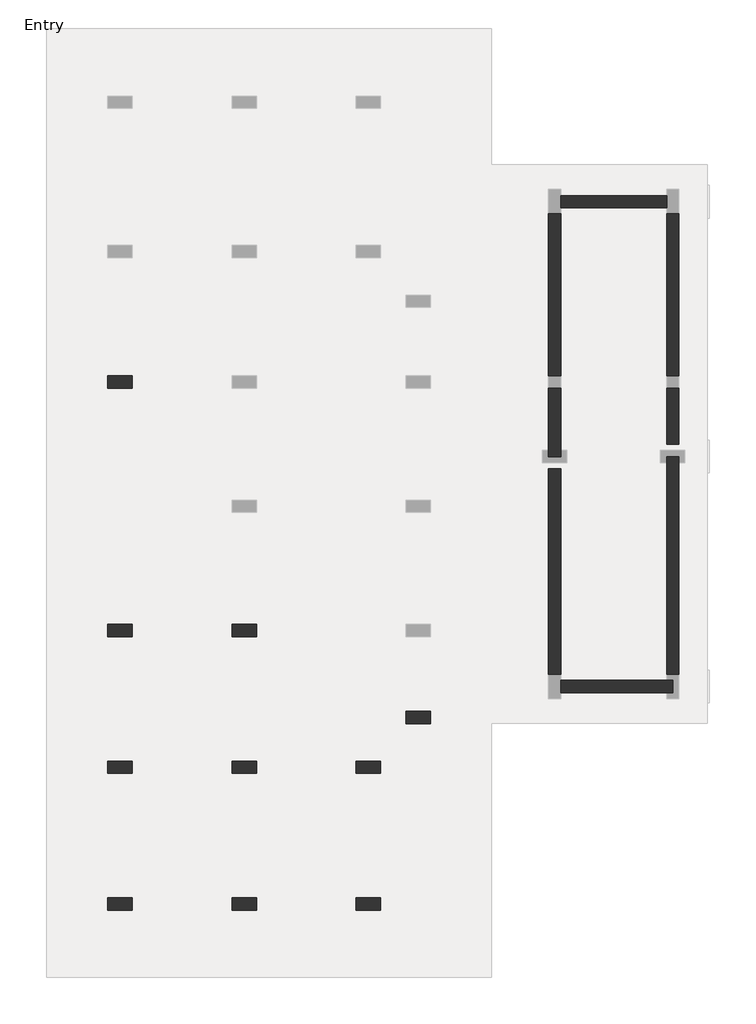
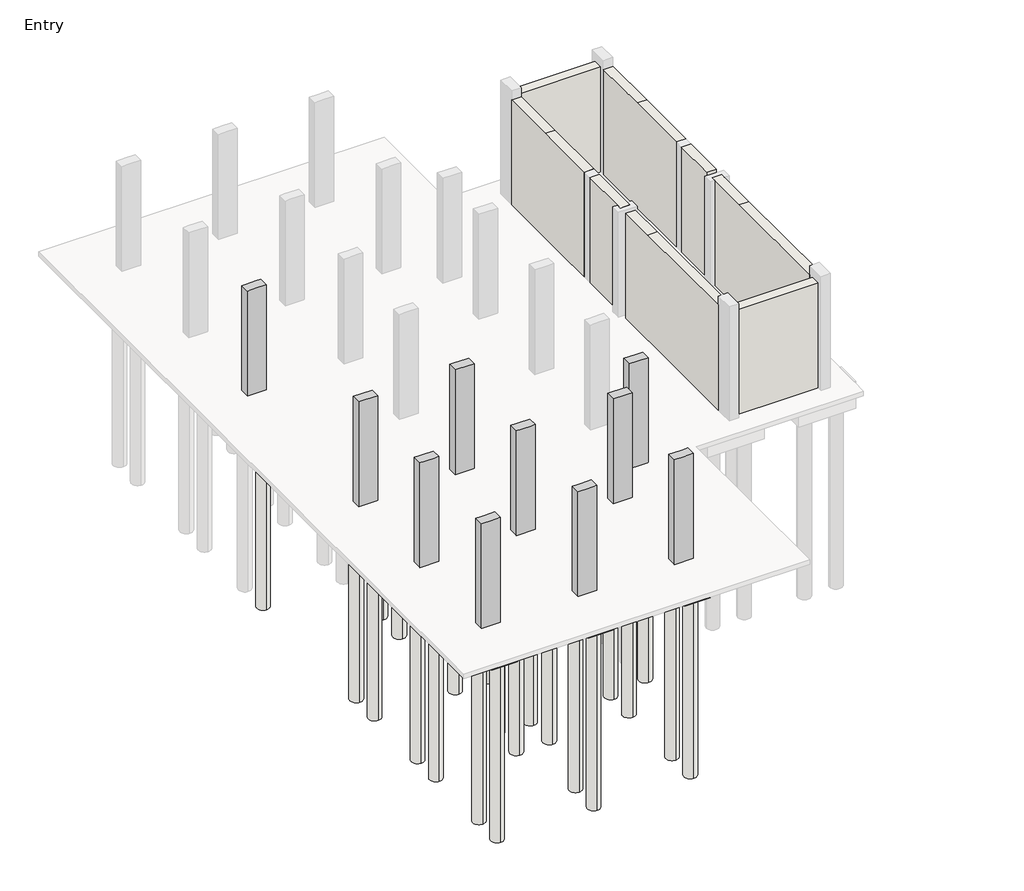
# One storey, part 1 of 3: 34 slabs, 10 columns, 8 walls.
"""IFC4 building model written with IfcOpenShell, lengths in millimetres."""

import ifcopenshell
import ifcopenshell.guid

model = None  # the IFC model being written
_history = None  # IfcOwnerHistory: only IFC2X3 demands one
_inside = {}  # id of a spatial element -> (the spatial element, [elements in it])
_under = {}  # id of a project, library or spatial element -> (it, [spatial elements below it])
_declared = {}  # id of a project -> (the project, [libraries it declares])
_typed = {}  # id of a type object -> (the type object, [elements of that type])
_made_of = {}  # id of a material, layer set ... -> (it, [elements and type objects made of it])


def new_model(schema):
    """Start an empty IFC model of exactly this schema.

    Asked for "IFC4X3", IfcOpenShell would pick the latest addendum, in which some entities
    have other attributes; the version numbers below select the first issue.
    IFC2X3 requires an IfcOwnerHistory on every rooted entity: one is made here for all.
    """
    global model, _history
    if schema == "IFC4X3":
        model = ifcopenshell.file(schema_version=(4, 3, 0, 0))
    else:
        model = ifcopenshell.file(schema=schema)
    _inside.clear()
    _under.clear()
    _declared.clear()
    _typed.clear()
    _made_of.clear()
    _history = None
    if model.schema == "IFC2X3":
        org = make("IfcOrganization", Name="unknown")
        user = make(
            "IfcPersonAndOrganization",
            ThePerson=make("IfcPerson", FamilyName="unknown"),
            TheOrganization=org,
        )
        app = make(
            "IfcApplication",
            ApplicationDeveloper=org,
            Version="unknown",
            ApplicationFullName="unknown",
            ApplicationIdentifier="unknown",
        )
        _history = make(
            "IfcOwnerHistory",
            OwningUser=user,
            OwningApplication=app,
            ChangeAction="ADDED",
            CreationDate=0,
        )
    return model


def make(cls, **values):
    """One entity of the class cls with the attributes given. An attribute that is None is left unset."""
    return model.create_entity(
        cls, **{name: value for name, value in values.items() if value is not None}
    )


def rooted(cls, **values):
    """An entity with a GlobalId (a new one), such as an element, a storey or a relation."""
    return make(cls, GlobalId=ifcopenshell.guid.new(), OwnerHistory=_history, **values)


def si_unit(unit_type, name, prefix=None):
    """IfcSIUnit, for example si_unit("LENGTHUNIT", "METRE", prefix="MILLI")."""
    return make("IfcSIUnit", UnitType=unit_type, Prefix=prefix, Name=name)


def assignment(units):
    """IfcUnitAssignment: the units of a project."""
    return None if units is None else make("IfcUnitAssignment", Units=units)


def point(xyz):
    """IfcCartesianPoint."""
    return None if xyz is None else make("IfcCartesianPoint", Coordinates=xyz)


def direction(xyz):
    """IfcDirection."""
    return None if xyz is None else make("IfcDirection", DirectionRatios=xyz)


def frame(location, z_axis=None, x_axis=None):
    """IfcAxis2Placement3D, a coordinate frame: its origin and axes. An axis left out is left unset."""
    return make(
        "IfcAxis2Placement3D",
        Location=point(location),
        Axis=direction(z_axis),
        RefDirection=direction(x_axis),
    )


def frame_2d(location, x_axis=None):
    """IfcAxis2Placement2D, a coordinate frame in the plane: its origin and x axis."""
    return make(
        "IfcAxis2Placement2D", Location=point(location), RefDirection=direction(x_axis)
    )


def origin():
    """The frame at (0, 0, 0) with its axes left unset."""
    return frame((0.0, 0.0, 0.0))


def origin_with_axes():
    """The frame at (0, 0, 0) with the z axis (0, 0, 1) and the x axis (1, 0, 0) written out."""
    return frame((0.0, 0.0, 0.0), z_axis=(0.0, 0.0, 1.0), x_axis=(1.0, 0.0, 0.0))


def place(relative_to, where):
    """IfcLocalPlacement: puts the frame where relative to a parent placement (None: the world)."""
    return make(
        "IfcLocalPlacement", PlacementRelTo=relative_to, RelativePlacement=where
    )


def context(
    kind, dimensions, precision=None, world=None, true_north=None, identifier=None
):
    """IfcGeometricRepresentationContext, for example the 3D "Model" context."""
    return make(
        "IfcGeometricRepresentationContext",
        ContextIdentifier=identifier,
        ContextType=kind,
        CoordinateSpaceDimension=dimensions,
        Precision=precision,
        WorldCoordinateSystem=world,
        TrueNorth=true_north,
    )


def project(units=None, contexts=None):
    """IfcProject with its units and contexts."""
    return rooted(
        "IfcProject",
        Name="project",
        RepresentationContexts=contexts,
        UnitsInContext=assignment(units),
    )


def spatial(cls, under=None, at=None, **own):
    """A site, building, storey or space (cls), placed at a placement, below another one or the project."""
    s = rooted(cls, ObjectPlacement=at, **own)
    if under is not None:
        _under.setdefault(under.id(), (under, []))[1].append(s)
    return s


def polyline(points):
    """IfcPolyline through the points."""
    return make("IfcPolyline", Points=[point(p) for p in points])


def circle_curve(where, radius):
    """IfcCircle in the frame where."""
    return make("IfcCircle", Position=where, Radius=radius)


def trimmed(basis, trim1, trim2, sense, master):
    """IfcTrimmedCurve: the piece of a basis curve between two trims."""
    return make(
        "IfcTrimmedCurve",
        BasisCurve=basis,
        Trim1=trim1,
        Trim2=trim2,
        SenseAgreement=sense,
        MasterRepresentation=master,
    )


def segment(curve, same_sense, transition):
    """IfcCompositeCurveSegment."""
    return make(
        "IfcCompositeCurveSegment",
        Transition=transition,
        SameSense=same_sense,
        ParentCurve=curve,
    )


def composite_curve(segments, self_intersect=None):
    """IfcCompositeCurve: segments joined end to end."""
    return make("IfcCompositeCurve", Segments=segments, SelfIntersect=self_intersect)


def outline(outer, holes=None, kind="AREA"):
    """IfcArbitraryClosedProfileDef: a profile drawn as a closed curve; with holes, ...WithVoids."""
    if holes is None:
        return make("IfcArbitraryClosedProfileDef", ProfileType=kind, OuterCurve=outer)
    return make(
        "IfcArbitraryProfileDefWithVoids",
        ProfileType=kind,
        OuterCurve=outer,
        InnerCurves=holes,
    )


def extrude(swept, where, along, depth):
    """IfcExtrudedAreaSolid: the profile swept, set in the frame where, extruded along a direction by depth."""
    return make(
        "IfcExtrudedAreaSolid",
        SweptArea=swept,
        Position=where,
        ExtrudedDirection=direction(along),
        Depth=depth,
    )


def faces_of(points, faces, orient=None, outer=None):
    """IfcFace entities. A face is a list of loops; a loop is a list of indices into points, from 0.

    orient and outer hold one flag for each loop. By default every Orientation is true, the
    first loop of a face is its IfcFaceOuterBound and the others are IfcFaceBound.
    """
    made = []
    for i, loops in enumerate(faces):
        bounds = []
        for j, loop in enumerate(loops):
            is_outer = j == 0 if outer is None else outer[i][j]
            bounds.append(
                make(
                    "IfcFaceOuterBound" if is_outer else "IfcFaceBound",
                    Bound=make("IfcPolyLoop", Polygon=[points[k] for k in loop]),
                    Orientation=True if orient is None else orient[i][j],
                )
            )
        made.append(make("IfcFace", Bounds=bounds))
    return made


def faceted_brep(points, faces, orient=None, outer=None, voids=None):
    """IfcFacetedBrep: a solid bounded by flat faces; with voids (closed shells), ...WithVoids."""
    shared = [point(p) for p in points]
    hull = make("IfcClosedShell", CfsFaces=faces_of(shared, faces, orient, outer))
    if voids is None:
        return make("IfcFacetedBrep", Outer=hull)
    return make(
        "IfcFacetedBrepWithVoids",
        Outer=hull,
        Voids=[
            make(cls, CfsFaces=faces_of(shared, fs, o, b)) for cls, fs, o, b in voids
        ],
    )


def shape(context_of_items, identifier, shape_type, items):
    """IfcShapeRepresentation: the items that make up one representation, for example the "Body"."""
    return make(
        "IfcShapeRepresentation",
        ContextOfItems=context_of_items,
        RepresentationIdentifier=identifier,
        RepresentationType=shape_type,
        Items=items,
    )


def made_of(thing, what):
    """Note that an element or type object is made of a material, layer set ...; save() writes the relation."""
    if what is not None:
        _made_of.setdefault(what.id(), (what, []))[1].append(thing)
    return thing


def element(
    cls,
    number,
    at=None,
    inside=None,
    cuts=None,
    type_object=None,
    material=None,
    context=None,
    identifier="Body",
    shape_type=None,
    held_by="IfcProductDefinitionShape",
    body=None,
    shapes=None,
    **own,
):
    """One element of the class cls, such as IfcWall. Its Tag is "e" and its number.

    at: its placement. inside: the storey or other place that contains it. cuts: it is an
    opening in that element (IfcRelVoidsElement). A single representation is given by context,
    identifier, shape_type and body (its items); several are given by shapes. held_by: the class
    of the entity that holds the representations. save() writes the other relations.
    """
    e = rooted(cls, Tag="e%d" % number, ObjectPlacement=at, **own)
    if body is not None:
        shapes = [shape(context, identifier, shape_type, body)]
    if shapes is not None:
        e.Representation = make(held_by, Representations=shapes)
    if inside is not None:
        _inside.setdefault(inside.id(), (inside, []))[1].append(e)
    if cuts is not None:
        rooted(
            "IfcRelVoidsElement", RelatingBuildingElement=cuts, RelatedOpeningElement=e
        )
    if type_object is not None:
        _typed.setdefault(type_object.id(), (type_object, []))[1].append(e)
    return made_of(e, material)


def aggregate(whole, parts):
    """IfcRelAggregates: a whole, such as a stair, and the parts it consists of."""
    return rooted("IfcRelAggregates", RelatingObject=whole, RelatedObjects=parts)


def save(model, path):
    """Write the relations noted so far, then the file.

    IfcRelAggregates (storeys below a building ...), IfcRelContainedInSpatialStructure (elements
    in a storey), IfcRelDefinesByType, IfcRelAssociatesMaterial and IfcRelDeclares: one each for
    every whole, place, type object, material and project.
    """
    for whole, parts in _under.values():
        aggregate(whole, parts)
    for where, things in _inside.values():
        rooted(
            "IfcRelContainedInSpatialStructure",
            RelatedElements=things,
            RelatingStructure=where,
        )
    for kind, things in _typed.values():
        rooted("IfcRelDefinesByType", RelatedObjects=things, RelatingType=kind)
    for what, things in _made_of.values():
        rooted("IfcRelAssociatesMaterial", RelatedObjects=things, RelatingMaterial=what)
    for by, libraries in _declared.values():
        rooted("IfcRelDeclares", RelatingContext=by, RelatedDefinitions=libraries)
    model.write(path)


model = new_model("IFC4")

# Units and contexts
model_context = context("Model", 3, world=origin())
ifc_project = project(units=[si_unit("LENGTHUNIT", "METRE", prefix="MILLI")], contexts=[model_context])

# Site, building, storey
site = spatial("IfcSite", under=ifc_project)
building = spatial("IfcBuilding", under=site)
storey = spatial("IfcBuildingStorey", under=building, Name="Entry", Elevation=0.0)

# Columns
placement = place(None, origin())
element("IfcColumn", 1, ObjectType="M_Concrete-Rectangular-Column : 300 x 600mm", at=placement, inside=storey, context=model_context, shape_type="Brep", body=[
    faceted_brep([(-13131.3472303, 8019.016665, 0.0), (-12531.3472303, 8019.016665, 0.0), (-12531.3472303, 7719.016665, 0.0), (-13131.3472303, 7719.016665, 0.0), (-13131.3472303, 8019.016665, 3505.2), (-12981.3472303, 8019.016665, 3505.2), (-12681.3472303, 8019.016665, 3505.2), (-12531.3472303, 8019.016665, 3505.2), (-12531.3472303, 8019.016665, 2910.0), (-12531.3472303, 7719.016665, 3505.2), (-12531.3472303, 7719.016665, 2910.0), (-12831.3472303, 7719.016665, 3505.2), (-13131.3472303, 7719.016665, 3505.2)], [[[0, 1, 2, 3]], [[4, 5, 6, 7, 8, 1, 0]], [[7, 9, 10, 2, 1, 8]], [[9, 11, 12, 3, 2, 10]], [[12, 4, 0, 3]], [[4, 12, 11, 9, 7, 6, 5]]]),
])
element("IfcColumn", 2, ObjectType="M_Concrete-Rectangular-Column : 300 x 600mm", at=placement, inside=storey, context=model_context, shape_type="Brep", body=[
    faceted_brep([(-13131.3472303, 1923.016665, 0.0), (-12531.3472303, 1923.016665, 0.0), (-12531.3472303, 1623.016665, 0.0), (-13131.3472303, 1623.016665, 0.0), (-13131.3472303, 1923.016665, 3505.2), (-12831.3472303, 1923.016665, 3505.2), (-12531.3472303, 1923.016665, 3505.2), (-12531.3472303, 1923.016665, 2910.0), (-12531.3472303, 1623.016665, 3505.2), (-12531.3472303, 1623.016665, 2910.0), (-12681.3472303, 1623.016665, 3505.2), (-12981.3472303, 1623.016665, 3505.2), (-13131.3472303, 1623.016665, 3505.2)], [[[0, 1, 2, 3]], [[4, 5, 6, 7, 1, 0]], [[6, 8, 9, 2, 1, 7]], [[8, 10, 11, 12, 3, 2, 9]], [[12, 4, 0, 3]], [[4, 12, 11, 10, 8, 6, 5]]]),
])
element("IfcColumn", 3, ObjectType="M_Concrete-Rectangular-Column : 300 x 600mm", at=placement, inside=storey, context=model_context, shape_type="Brep", body=[
    faceted_brep([(-10083.3472303, 1923.016665, 0.0), (-9483.3472303, 1923.016665, 0.0), (-9483.3472303, 1623.016665, 0.0), (-10083.3472303, 1623.016665, 0.0), (-10083.3472303, 1923.016665, 3505.2), (-9933.3472303, 1923.016665, 3505.2), (-9783.3472303, 1923.016665, 3505.2), (-9483.3472303, 1923.016665, 3505.2), (-9483.3472303, 1923.016665, 2910.0), (-10083.3472303, 1923.016665, 2910.0), (-9483.3472303, 1623.016665, 3505.2), (-9483.3472303, 1623.016665, 2910.0), (-9783.3472303, 1623.016665, 3505.2), (-9933.3472303, 1623.016665, 3505.2), (-10083.3472303, 1623.016665, 3505.2), (-10083.3472303, 1623.016665, 2910.0)], [[[0, 1, 2, 3]], [[4, 5, 6, 7, 8, 1, 0, 9]], [[7, 10, 11, 2, 1, 8]], [[10, 12, 13, 14, 15, 3, 2, 11]], [[14, 4, 9, 0, 3, 15]], [[4, 14, 13, 12, 10, 7, 6, 5]]]),
])
element("IfcColumn", 4, ObjectType="M_Concrete-Rectangular-Column : 300 x 600mm", at=placement, inside=storey, context=model_context, shape_type="Brep", body=[
    faceted_brep([(-5816.3472303, -210.983335, 0.0), (-5216.3472303, -210.983335, 0.0), (-5216.3472303, -510.983335, 0.0), (-5816.3472303, -510.983335, 0.0), (-5816.3472303, -210.983335, 3505.2), (-5666.3472303, -210.983335, 3505.2), (-5366.3472303, -210.983335, 3505.2), (-5216.3472303, -210.983335, 3505.2), (-5816.3472303, -210.983335, 2910.0), (-5216.3472303, -510.983335, 3505.2), (-5516.3472303, -510.983335, 3505.2), (-5816.3472303, -510.983335, 3505.2), (-5816.3472303, -510.983335, 2910.0)], [[[0, 1, 2, 3]], [[4, 5, 6, 7, 1, 0, 8]], [[7, 9, 2, 1]], [[9, 10, 11, 12, 3, 2]], [[11, 4, 8, 0, 3, 12]], [[4, 11, 10, 9, 7, 6, 5]]]),
])
element("IfcColumn", 5, ObjectType="M_Concrete-Rectangular-Column : 300 x 600mm", at=placement, inside=storey, context=model_context, shape_type="Brep", body=[
    faceted_brep([(-13131.3472303, -1429.983335, 0.0), (-12531.3472303, -1429.983335, 0.0), (-12531.3472303, -1729.983335, 0.0), (-13131.3472303, -1729.983335, 0.0), (-13131.3472303, -1429.983335, 3505.2), (-12981.3472303, -1429.983335, 3505.2), (-12831.3472303, -1429.983335, 3505.2), (-12531.3472303, -1429.983335, 3505.2), (-12531.3472303, -1429.983335, 2910.0), (-12531.3472303, -1729.983335, 3505.2), (-12531.3472303, -1729.983335, 2910.0), (-12681.3472303, -1729.983335, 3505.2), (-12981.3472303, -1729.983335, 3505.2), (-13131.3472303, -1729.983335, 3505.2)], [[[0, 1, 2, 3]], [[4, 5, 6, 7, 8, 1, 0]], [[7, 9, 10, 2, 1, 8]], [[9, 11, 12, 13, 3, 2, 10]], [[13, 4, 0, 3]], [[4, 13, 12, 11, 9, 7, 6, 5]]]),
])
element("IfcColumn", 6, ObjectType="M_Concrete-Rectangular-Column : 300 x 600mm", at=placement, inside=storey, context=model_context, shape_type="Brep", body=[
    faceted_brep([(-10083.3472303, -1429.983335, 0.0), (-9483.3472303, -1429.983335, 0.0), (-9483.3472303, -1729.983335, 0.0), (-10083.3472303, -1729.983335, 0.0), (-10083.3472303, -1429.983335, 3505.2), (-9933.3472303, -1429.983335, 3505.2), (-9783.3472303, -1429.983335, 3505.2), (-9483.3472303, -1429.983335, 3505.2), (-9483.3472303, -1429.983335, 2910.0), (-10083.3472303, -1429.983335, 2910.0), (-9483.3472303, -1729.983335, 3505.2), (-9483.3472303, -1729.983335, 2910.0), (-9633.3472303, -1729.983335, 3505.2), (-9933.3472303, -1729.983335, 3505.2), (-10083.3472303, -1729.983335, 3505.2), (-10083.3472303, -1729.983335, 2910.0)], [[[0, 1, 2, 3]], [[4, 5, 6, 7, 8, 1, 0, 9]], [[7, 10, 11, 2, 1, 8]], [[10, 12, 13, 14, 15, 3, 2, 11]], [[14, 4, 9, 0, 3, 15]], [[4, 14, 13, 12, 10, 7, 6, 5]]]),
])
element("IfcColumn", 7, ObjectType="M_Concrete-Rectangular-Column : 300 x 600mm", at=placement, inside=storey, context=model_context, shape_type="Brep", body=[
    faceted_brep([(-7035.3472303, -1429.983335, 0.0), (-6435.3472303, -1429.983335, 0.0), (-6435.3472303, -1729.983335, 0.0), (-7035.3472303, -1729.983335, 0.0), (-7035.3472303, -1429.983335, 3505.2), (-6885.3472303, -1429.983335, 3505.2), (-6585.3472303, -1429.983335, 3505.2), (-6435.3472303, -1429.983335, 3505.2), (-7035.3472303, -1429.983335, 2910.0), (-6435.3472303, -1729.983335, 3505.2), (-6585.3472303, -1729.983335, 3505.2), (-6735.3472303, -1729.983335, 3505.2), (-7035.3472303, -1729.983335, 3505.2), (-7035.3472303, -1729.983335, 2910.0)], [[[0, 1, 2, 3]], [[4, 5, 6, 7, 1, 0, 8]], [[7, 9, 2, 1]], [[9, 10, 11, 12, 13, 3, 2]], [[12, 4, 8, 0, 3, 13]], [[4, 12, 11, 10, 9, 7, 6, 5]]]),
])
element("IfcColumn", 8, ObjectType="M_Concrete-Rectangular-Column : 300 x 600mm", at=placement, inside=storey, context=model_context, shape_type="Brep", body=[
    faceted_brep([(-13131.3472303, -4782.983335, 0.0), (-12531.3472303, -4782.983335, 0.0), (-12531.3472303, -5082.983335, 0.0), (-13131.3472303, -5082.983335, 0.0), (-13131.3472303, -4782.983335, 3505.2), (-12981.3472303, -4782.983335, 3505.2), (-12831.3472303, -4782.983335, 3505.2), (-12531.3472303, -4782.983335, 3505.2), (-12531.3472303, -4782.983335, 2910.0), (-12531.3472303, -5082.983335, 3505.2), (-12531.3472303, -5082.983335, 2910.0), (-12831.3472303, -5082.983335, 3505.2), (-13131.3472303, -5082.983335, 3505.2)], [[[0, 1, 2, 3]], [[4, 5, 6, 7, 8, 1, 0]], [[7, 9, 10, 2, 1, 8]], [[9, 11, 12, 3, 2, 10]], [[12, 4, 0, 3]], [[4, 12, 11, 9, 7, 6, 5]]]),
])
element("IfcColumn", 9, ObjectType="M_Concrete-Rectangular-Column : 300 x 600mm", at=placement, inside=storey, context=model_context, shape_type="Brep", body=[
    faceted_brep([(-10083.3472303, -4782.983335, 0.0), (-9483.3472303, -4782.983335, 0.0), (-9483.3472303, -5082.983335, 0.0), (-10083.3472303, -5082.983335, 0.0), (-10083.3472303, -4782.983335, 3505.2), (-9933.3472303, -4782.983335, 3505.2), (-9783.3472303, -4782.983335, 3505.2), (-9483.3472303, -4782.983335, 3505.2), (-9483.3472303, -4782.983335, 2910.0), (-10083.3472303, -4782.983335, 2910.0), (-9483.3472303, -5082.983335, 3505.2), (-9483.3472303, -5082.983335, 2910.0), (-9783.3472303, -5082.983335, 3505.2), (-10083.3472303, -5082.983335, 3505.2), (-10083.3472303, -5082.983335, 2910.0)], [[[0, 1, 2, 3]], [[4, 5, 6, 7, 8, 1, 0, 9]], [[7, 10, 11, 2, 1, 8]], [[10, 12, 13, 14, 3, 2, 11]], [[13, 4, 9, 0, 3, 14]], [[4, 13, 12, 10, 7, 6, 5]]]),
])
element("IfcColumn", 10, ObjectType="M_Concrete-Rectangular-Column : 300 x 600mm", at=placement, inside=storey, context=model_context, shape_type="Brep", body=[
    faceted_brep([(-7035.3472303, -4782.983335, 0.0), (-6435.3472303, -4782.983335, 0.0), (-6435.3472303, -5082.983335, 0.0), (-7035.3472303, -5082.983335, 0.0), (-7035.3472303, -4782.983335, 3505.2), (-6885.3472303, -4782.983335, 3505.2), (-6585.3472303, -4782.983335, 3505.2), (-6435.3472303, -4782.983335, 3505.2), (-7035.3472303, -4782.983335, 2910.0), (-6435.3472303, -5082.983335, 3505.2), (-6735.3472303, -5082.983335, 3505.2), (-7035.3472303, -5082.983335, 3505.2), (-7035.3472303, -5082.983335, 2910.0)], [[[0, 1, 2, 3]], [[4, 5, 6, 7, 1, 0, 8]], [[7, 9, 2, 1]], [[9, 10, 11, 12, 3, 2]], [[11, 4, 8, 0, 3, 12]], [[4, 11, 10, 9, 7, 6, 5]]]),
])

# Slabs
element("IfcSlab", 11, ObjectType="M_Pile Cap-2 Pile : 800 x 1500 x 900", at=placement, inside=storey, context=model_context, shape_type="SweptSolid", body=[
    extrude(outline(polyline([(-7135.3472303, -679.983335), (-6335.3472303, -679.983335), (-6335.3472303, -2479.983335), (-7135.3472303, -2479.983335), (-7135.3472303, -679.983335)])), frame((0.0, 0.0, -900.0), z_axis=(0.0, 0.0, 1.0), x_axis=(1.0, 0.0, 0.0)), (0.0, 0.0, 1.0), 750.0),
])
element("IfcSlab", 12, ObjectType="M_Pile Cap-2 Pile : 800 x 1500 x 900", at=placement, inside=storey, context=model_context, shape_type="SweptSolid", body=[
    extrude(outline(polyline([(-7135.3472303, -4032.983335), (-6335.3472303, -4032.983335), (-6335.3472303, -5832.983335), (-7135.3472303, -5832.983335), (-7135.3472303, -4032.983335)])), frame((0.0, 0.0, -900.0), z_axis=(0.0, 0.0, 1.0), x_axis=(1.0, 0.0, 0.0)), (0.0, 0.0, 1.0), 750.0),
])
element("IfcSlab", 13, ObjectType="M_Pile Cap-2 Pile : 800 x 1500 x 900", at=placement, inside=storey, context=model_context, shape_type="SweptSolid", body=[
    extrude(outline(polyline([(-10183.3472303, -4032.983335), (-9383.3472303, -4032.983335), (-9383.3472303, -5832.983335), (-10183.3472303, -5832.983335), (-10183.3472303, -4032.983335)])), frame((0.0, 0.0, -900.0), z_axis=(0.0, 0.0, 1.0), x_axis=(1.0, 0.0, 0.0)), (0.0, 0.0, 1.0), 750.0),
])
element("IfcSlab", 14, ObjectType="M_Pile Cap-2 Pile : 800 x 1500 x 900", at=placement, inside=storey, context=model_context, shape_type="SweptSolid", body=[
    extrude(outline(polyline([(-13231.3472303, -4032.983335), (-12431.3472303, -4032.983335), (-12431.3472303, -5832.983335), (-13231.3472303, -5832.983335), (-13231.3472303, -4032.983335)])), frame((0.0, 0.0, -900.0), z_axis=(0.0, 0.0, 1.0), x_axis=(1.0, 0.0, 0.0)), (0.0, 0.0, 1.0), 750.0),
])
element("IfcSlab", 15, ObjectType="M_Pile Cap-2 Pile : 800 x 1500 x 900", at=placement, inside=storey, context=model_context, shape_type="SweptSolid", body=[
    extrude(outline(polyline([(-13231.3472303, -679.983335), (-12431.3472303, -679.983335), (-12431.3472303, -2479.983335), (-13231.3472303, -2479.983335), (-13231.3472303, -679.983335)])), frame((0.0, 0.0, -900.0), z_axis=(0.0, 0.0, 1.0), x_axis=(1.0, 0.0, 0.0)), (0.0, 0.0, 1.0), 750.0),
])
element("IfcSlab", 16, ObjectType="M_Pile Cap-2 Pile : 800 x 1500 x 900", at=placement, inside=storey, context=model_context, shape_type="SweptSolid", body=[
    extrude(outline(polyline([(-13231.3472303, 2673.016665), (-12431.3472303, 2673.016665), (-12431.3472303, 873.016665), (-13231.3472303, 873.016665), (-13231.3472303, 2673.016665)])), frame((0.0, 0.0, -900.0), z_axis=(0.0, 0.0, 1.0), x_axis=(1.0, 0.0, 0.0)), (0.0, 0.0, 1.0), 750.0),
])
element("IfcSlab", 17, ObjectType="M_Pile Cap-2 Pile : 800 x 1500 x 900", at=placement, inside=storey, context=model_context, shape_type="SweptSolid", body=[
    extrude(outline(polyline([(-13231.3472303, 8769.016665), (-12431.3472303, 8769.016665), (-12431.3472303, 6969.016665), (-13231.3472303, 6969.016665), (-13231.3472303, 8769.016665)])), frame((0.0, 0.0, -900.0), z_axis=(0.0, 0.0, 1.0), x_axis=(1.0, 0.0, 0.0)), (0.0, 0.0, 1.0), 750.0),
])
element("IfcSlab", 18, ObjectType="M_Pile Cap-2 Pile : 800 x 1500 x 900", at=placement, inside=storey, context=model_context, shape_type="SweptSolid", body=[
    extrude(outline(polyline([(-5916.3472303, 539.016665), (-5116.3472303, 539.016665), (-5116.3472303, -1260.983335), (-5916.3472303, -1260.983335), (-5916.3472303, 539.016665)])), frame((0.0, 0.0, -900.0), z_axis=(0.0, 0.0, 1.0), x_axis=(1.0, 0.0, 0.0)), (0.0, 0.0, 1.0), 750.0),
])
element("IfcSlab", 19, ObjectType="M_Pile Cap-4 Pile : 1800 x 1800 x 900", at=placement, inside=storey, context=model_context, shape_type="SweptSolid", body=[
    extrude(outline(polyline([(-10683.3472303, 2673.016665), (-8883.3472303, 2673.016665), (-8883.3472303, 873.016665), (-10683.3472303, 873.016665), (-10683.3472303, 2673.016665)])), frame((0.0, 0.0, -900.0), z_axis=(0.0, 0.0, 1.0), x_axis=(1.0, 0.0, 0.0)), (0.0, 0.0, 1.0), 750.0),
])
element("IfcSlab", 20, ObjectType="M_Pile Cap-4 Pile : 1800 x 1800 x 900", at=placement, inside=storey, context=model_context, shape_type="SweptSolid", body=[
    extrude(outline(polyline([(-10683.3472303, -679.983335), (-8883.3472303, -679.983335), (-8883.3472303, -2479.983335), (-10683.3472303, -2479.983335), (-10683.3472303, -679.983335)])), frame((0.0, 0.0, -900.0), z_axis=(0.0, 0.0, 1.0), x_axis=(1.0, 0.0, 0.0)), (0.0, 0.0, 1.0), 750.0),
])
element("IfcSlab", 21, ObjectType="M_Pile-Steel Pipe : 400mm Diameter", at=placement, inside=storey, context=model_context, shape_type="SweptSolid", body=[
    extrude(outline(composite_curve([segment(trimmed(circle_curve(frame_2d((-10303.3472303, 5341.016665)), 200.0), [point((-10303.3472303, 5141.016665))], [point((-10303.3472303, 5541.016665))], False, "CARTESIAN"), True, "CONTINUOUS"), segment(trimmed(circle_curve(frame_2d((-10303.3472303, 5341.016665)), 200.0), [point((-10303.3472303, 5541.016665))], [point((-10303.3472303, 5141.016665))], False, "CARTESIAN"), True, "CONTINUOUS")], self_intersect=False)), frame((0.0, 0.0, -6900.0), z_axis=(0.0, 0.0, 1.0), x_axis=(1.0, 0.0, 0.0)), (0.0, 0.0, 1.0), 6000.0),
])
element("IfcSlab", 22, ObjectType="M_Pile-Steel Pipe : 400mm Diameter", at=placement, inside=storey, context=model_context, shape_type="SweptSolid", body=[
    extrude(outline(composite_curve([segment(trimmed(circle_curve(frame_2d((-10303.3472303, 4301.016665)), 200.0), [point((-10303.3472303, 4101.016665))], [point((-10303.3472303, 4501.016665))], False, "CARTESIAN"), True, "CONTINUOUS"), segment(trimmed(circle_curve(frame_2d((-10303.3472303, 4301.016665)), 200.0), [point((-10303.3472303, 4501.016665))], [point((-10303.3472303, 4101.016665))], False, "CARTESIAN"), True, "CONTINUOUS")], self_intersect=False)), frame((0.0, 0.0, -6900.0), z_axis=(0.0, 0.0, 1.0), x_axis=(1.0, 0.0, 0.0)), (0.0, 0.0, 1.0), 6000.0),
])
element("IfcSlab", 23, ObjectType="M_Pile-Steel Pipe : 400mm Diameter", at=placement, inside=storey, context=model_context, shape_type="SweptSolid", body=[
    extrude(outline(composite_curve([segment(trimmed(circle_curve(frame_2d((-9263.3472303, 1253.016665)), 200.0), [point((-9263.3472303, 1053.016665))], [point((-9263.3472303, 1453.016665))], False, "CARTESIAN"), True, "CONTINUOUS"), segment(trimmed(circle_curve(frame_2d((-9263.3472303, 1253.016665)), 200.0), [point((-9263.3472303, 1453.016665))], [point((-9263.3472303, 1053.016665))], False, "CARTESIAN"), True, "CONTINUOUS")], self_intersect=False)), frame((0.0, 0.0, -6900.0), z_axis=(0.0, 0.0, 1.0), x_axis=(1.0, 0.0, 0.0)), (0.0, 0.0, 1.0), 6000.0),
])
element("IfcSlab", 24, ObjectType="M_Pile-Steel Pipe : 400mm Diameter", at=placement, inside=storey, context=model_context, shape_type="SweptSolid", body=[
    extrude(outline(composite_curve([segment(trimmed(circle_curve(frame_2d((-9263.3472303, 2293.016665)), 200.0), [point((-9263.3472303, 2093.016665))], [point((-9263.3472303, 2493.016665))], False, "CARTESIAN"), True, "CONTINUOUS"), segment(trimmed(circle_curve(frame_2d((-9263.3472303, 2293.016665)), 200.0), [point((-9263.3472303, 2493.016665))], [point((-9263.3472303, 2093.016665))], False, "CARTESIAN"), True, "CONTINUOUS")], self_intersect=False)), frame((0.0, 0.0, -6900.0), z_axis=(0.0, 0.0, 1.0), x_axis=(1.0, 0.0, 0.0)), (0.0, 0.0, 1.0), 6000.0),
])
element("IfcSlab", 25, ObjectType="M_Pile-Steel Pipe : 400mm Diameter", at=placement, inside=storey, context=model_context, shape_type="SweptSolid", body=[
    extrude(outline(composite_curve([segment(trimmed(circle_curve(frame_2d((-10303.3472303, 2293.016665)), 200.0), [point((-10303.3472303, 2093.016665))], [point((-10303.3472303, 2493.016665))], False, "CARTESIAN"), True, "CONTINUOUS"), segment(trimmed(circle_curve(frame_2d((-10303.3472303, 2293.016665)), 200.0), [point((-10303.3472303, 2493.016665))], [point((-10303.3472303, 2093.016665))], False, "CARTESIAN"), True, "CONTINUOUS")], self_intersect=False)), frame((0.0, 0.0, -6900.0), z_axis=(0.0, 0.0, 1.0), x_axis=(1.0, 0.0, 0.0)), (0.0, 0.0, 1.0), 6000.0),
])
element("IfcSlab", 26, ObjectType="M_Pile-Steel Pipe : 400mm Diameter", at=placement, inside=storey, context=model_context, shape_type="SweptSolid", body=[
    extrude(outline(composite_curve([segment(trimmed(circle_curve(frame_2d((-10303.3472303, 1253.016665)), 200.0), [point((-10303.3472303, 1053.016665))], [point((-10303.3472303, 1453.016665))], False, "CARTESIAN"), True, "CONTINUOUS"), segment(trimmed(circle_curve(frame_2d((-10303.3472303, 1253.016665)), 200.0), [point((-10303.3472303, 1453.016665))], [point((-10303.3472303, 1053.016665))], False, "CARTESIAN"), True, "CONTINUOUS")], self_intersect=False)), frame((0.0, 0.0, -6900.0), z_axis=(0.0, 0.0, 1.0), x_axis=(1.0, 0.0, 0.0)), (0.0, 0.0, 1.0), 6000.0),
])
element("IfcSlab", 27, ObjectType="M_Pile-Steel Pipe : 400mm Diameter", at=placement, inside=storey, context=model_context, shape_type="SweptSolid", body=[
    extrude(outline(composite_curve([segment(trimmed(circle_curve(frame_2d((-9263.3472303, -2099.983335)), 200.0), [point((-9263.3472303, -2299.983335))], [point((-9263.3472303, -1899.983335))], False, "CARTESIAN"), True, "CONTINUOUS"), segment(trimmed(circle_curve(frame_2d((-9263.3472303, -2099.983335)), 200.0), [point((-9263.3472303, -1899.983335))], [point((-9263.3472303, -2299.983335))], False, "CARTESIAN"), True, "CONTINUOUS")], self_intersect=False)), frame((0.0, 0.0, -6900.0), z_axis=(0.0, 0.0, 1.0), x_axis=(1.0, 0.0, 0.0)), (0.0, 0.0, 1.0), 6000.0),
])
element("IfcSlab", 28, ObjectType="M_Pile-Steel Pipe : 400mm Diameter", at=placement, inside=storey, context=model_context, shape_type="SweptSolid", body=[
    extrude(outline(composite_curve([segment(trimmed(circle_curve(frame_2d((-9263.3472303, -1059.983335)), 200.0), [point((-9263.3472303, -1259.983335))], [point((-9263.3472303, -859.983335))], False, "CARTESIAN"), True, "CONTINUOUS"), segment(trimmed(circle_curve(frame_2d((-9263.3472303, -1059.983335)), 200.0), [point((-9263.3472303, -859.983335))], [point((-9263.3472303, -1259.983335))], False, "CARTESIAN"), True, "CONTINUOUS")], self_intersect=False)), frame((0.0, 0.0, -6900.0), z_axis=(0.0, 0.0, 1.0), x_axis=(1.0, 0.0, 0.0)), (0.0, 0.0, 1.0), 6000.0),
])
element("IfcSlab", 29, ObjectType="M_Pile-Steel Pipe : 400mm Diameter", at=placement, inside=storey, context=model_context, shape_type="SweptSolid", body=[
    extrude(outline(composite_curve([segment(trimmed(circle_curve(frame_2d((-10303.3472303, -1059.983335)), 200.0), [point((-10303.3472303, -1259.983335))], [point((-10303.3472303, -859.983335))], False, "CARTESIAN"), True, "CONTINUOUS"), segment(trimmed(circle_curve(frame_2d((-10303.3472303, -1059.983335)), 200.0), [point((-10303.3472303, -859.983335))], [point((-10303.3472303, -1259.983335))], False, "CARTESIAN"), True, "CONTINUOUS")], self_intersect=False)), frame((0.0, 0.0, -6900.0), z_axis=(0.0, 0.0, 1.0), x_axis=(1.0, 0.0, 0.0)), (0.0, 0.0, 1.0), 6000.0),
])
element("IfcSlab", 30, ObjectType="M_Pile-Steel Pipe : 400mm Diameter", at=placement, inside=storey, context=model_context, shape_type="SweptSolid", body=[
    extrude(outline(composite_curve([segment(trimmed(circle_curve(frame_2d((-10303.3472303, -2099.983335)), 200.0), [point((-10303.3472303, -2299.983335))], [point((-10303.3472303, -1899.983335))], False, "CARTESIAN"), True, "CONTINUOUS"), segment(trimmed(circle_curve(frame_2d((-10303.3472303, -2099.983335)), 200.0), [point((-10303.3472303, -1899.983335))], [point((-10303.3472303, -2299.983335))], False, "CARTESIAN"), True, "CONTINUOUS")], self_intersect=False)), frame((0.0, 0.0, -6900.0), z_axis=(0.0, 0.0, 1.0), x_axis=(1.0, 0.0, 0.0)), (0.0, 0.0, 1.0), 6000.0),
])
element("IfcSlab", 31, ObjectType="M_Pile-Steel Pipe : 400mm Diameter", at=placement, inside=storey, context=model_context, shape_type="SweptSolid", body=[
    extrude(outline(composite_curve([segment(trimmed(circle_curve(frame_2d((-6735.3472303, -2079.983335)), 200.0), [point((-6735.3472303, -2279.983335))], [point((-6735.3472303, -1879.983335))], False, "CARTESIAN"), True, "CONTINUOUS"), segment(trimmed(circle_curve(frame_2d((-6735.3472303, -2079.983335)), 200.0), [point((-6735.3472303, -1879.983335))], [point((-6735.3472303, -2279.983335))], False, "CARTESIAN"), True, "CONTINUOUS")], self_intersect=False)), frame((0.0, 0.0, -6900.0), z_axis=(0.0, 0.0, 1.0), x_axis=(1.0, 0.0, 0.0)), (0.0, 0.0, 1.0), 6000.0),
])
element("IfcSlab", 32, ObjectType="M_Pile-Steel Pipe : 400mm Diameter", at=placement, inside=storey, context=model_context, shape_type="SweptSolid", body=[
    extrude(outline(composite_curve([segment(trimmed(circle_curve(frame_2d((-6735.3472303, -1079.983335)), 200.0), [point((-6735.3472303, -1279.983335))], [point((-6735.3472303, -879.983335))], False, "CARTESIAN"), True, "CONTINUOUS"), segment(trimmed(circle_curve(frame_2d((-6735.3472303, -1079.983335)), 200.0), [point((-6735.3472303, -879.983335))], [point((-6735.3472303, -1279.983335))], False, "CARTESIAN"), True, "CONTINUOUS")], self_intersect=False)), frame((0.0, 0.0, -6900.0), z_axis=(0.0, 0.0, 1.0), x_axis=(1.0, 0.0, 0.0)), (0.0, 0.0, 1.0), 6000.0),
])
element("IfcSlab", 33, ObjectType="M_Pile-Steel Pipe : 400mm Diameter", at=placement, inside=storey, context=model_context, shape_type="SweptSolid", body=[
    extrude(outline(composite_curve([segment(trimmed(circle_curve(frame_2d((-6735.3472303, -5432.983335)), 200.0), [point((-6735.3472303, -5632.983335))], [point((-6735.3472303, -5232.983335))], False, "CARTESIAN"), True, "CONTINUOUS"), segment(trimmed(circle_curve(frame_2d((-6735.3472303, -5432.983335)), 200.0), [point((-6735.3472303, -5232.983335))], [point((-6735.3472303, -5632.983335))], False, "CARTESIAN"), True, "CONTINUOUS")], self_intersect=False)), frame((0.0, 0.0, -6900.0), z_axis=(0.0, 0.0, 1.0), x_axis=(1.0, 0.0, 0.0)), (0.0, 0.0, 1.0), 6000.0),
])
element("IfcSlab", 34, ObjectType="M_Pile-Steel Pipe : 400mm Diameter", at=placement, inside=storey, context=model_context, shape_type="SweptSolid", body=[
    extrude(outline(composite_curve([segment(trimmed(circle_curve(frame_2d((-6735.3472303, -4432.983335)), 200.0), [point((-6735.3472303, -4632.983335))], [point((-6735.3472303, -4232.983335))], False, "CARTESIAN"), True, "CONTINUOUS"), segment(trimmed(circle_curve(frame_2d((-6735.3472303, -4432.983335)), 200.0), [point((-6735.3472303, -4232.983335))], [point((-6735.3472303, -4632.983335))], False, "CARTESIAN"), True, "CONTINUOUS")], self_intersect=False)), frame((0.0, 0.0, -6900.0), z_axis=(0.0, 0.0, 1.0), x_axis=(1.0, 0.0, 0.0)), (0.0, 0.0, 1.0), 6000.0),
])
element("IfcSlab", 35, ObjectType="M_Pile-Steel Pipe : 400mm Diameter", at=placement, inside=storey, context=model_context, shape_type="SweptSolid", body=[
    extrude(outline(composite_curve([segment(trimmed(circle_curve(frame_2d((-9783.3472303, -5432.983335)), 200.0), [point((-9783.3472303, -5632.983335))], [point((-9783.3472303, -5232.983335))], False, "CARTESIAN"), True, "CONTINUOUS"), segment(trimmed(circle_curve(frame_2d((-9783.3472303, -5432.983335)), 200.0), [point((-9783.3472303, -5232.983335))], [point((-9783.3472303, -5632.983335))], False, "CARTESIAN"), True, "CONTINUOUS")], self_intersect=False)), frame((0.0, 0.0, -6900.0), z_axis=(0.0, 0.0, 1.0), x_axis=(1.0, 0.0, 0.0)), (0.0, 0.0, 1.0), 6000.0),
])
element("IfcSlab", 36, ObjectType="M_Pile-Steel Pipe : 400mm Diameter", at=placement, inside=storey, context=model_context, shape_type="SweptSolid", body=[
    extrude(outline(composite_curve([segment(trimmed(circle_curve(frame_2d((-9783.3472303, -4432.983335)), 200.0), [point((-9783.3472303, -4632.983335))], [point((-9783.3472303, -4232.983335))], False, "CARTESIAN"), True, "CONTINUOUS"), segment(trimmed(circle_curve(frame_2d((-9783.3472303, -4432.983335)), 200.0), [point((-9783.3472303, -4232.983335))], [point((-9783.3472303, -4632.983335))], False, "CARTESIAN"), True, "CONTINUOUS")], self_intersect=False)), frame((0.0, 0.0, -6900.0), z_axis=(0.0, 0.0, 1.0), x_axis=(1.0, 0.0, 0.0)), (0.0, 0.0, 1.0), 6000.0),
])
element("IfcSlab", 37, ObjectType="M_Pile-Steel Pipe : 400mm Diameter", at=placement, inside=storey, context=model_context, shape_type="SweptSolid", body=[
    extrude(outline(composite_curve([segment(trimmed(circle_curve(frame_2d((-12831.3472303, -5432.983335)), 200.0), [point((-12831.3472303, -5632.983335))], [point((-12831.3472303, -5232.983335))], False, "CARTESIAN"), True, "CONTINUOUS"), segment(trimmed(circle_curve(frame_2d((-12831.3472303, -5432.983335)), 200.0), [point((-12831.3472303, -5232.983335))], [point((-12831.3472303, -5632.983335))], False, "CARTESIAN"), True, "CONTINUOUS")], self_intersect=False)), frame((0.0, 0.0, -6900.0), z_axis=(0.0, 0.0, 1.0), x_axis=(1.0, 0.0, 0.0)), (0.0, 0.0, 1.0), 6000.0),
])
element("IfcSlab", 38, ObjectType="M_Pile-Steel Pipe : 400mm Diameter", at=placement, inside=storey, context=model_context, shape_type="SweptSolid", body=[
    extrude(outline(composite_curve([segment(trimmed(circle_curve(frame_2d((-12831.3472303, -4432.983335)), 200.0), [point((-12831.3472303, -4632.983335))], [point((-12831.3472303, -4232.983335))], False, "CARTESIAN"), True, "CONTINUOUS"), segment(trimmed(circle_curve(frame_2d((-12831.3472303, -4432.983335)), 200.0), [point((-12831.3472303, -4232.983335))], [point((-12831.3472303, -4632.983335))], False, "CARTESIAN"), True, "CONTINUOUS")], self_intersect=False)), frame((0.0, 0.0, -6900.0), z_axis=(0.0, 0.0, 1.0), x_axis=(1.0, 0.0, 0.0)), (0.0, 0.0, 1.0), 6000.0),
])
element("IfcSlab", 39, ObjectType="M_Pile-Steel Pipe : 400mm Diameter", at=placement, inside=storey, context=model_context, shape_type="SweptSolid", body=[
    extrude(outline(composite_curve([segment(trimmed(circle_curve(frame_2d((-12831.3472303, -2079.983335)), 200.0), [point((-12831.3472303, -2279.983335))], [point((-12831.3472303, -1879.983335))], False, "CARTESIAN"), True, "CONTINUOUS"), segment(trimmed(circle_curve(frame_2d((-12831.3472303, -2079.983335)), 200.0), [point((-12831.3472303, -1879.983335))], [point((-12831.3472303, -2279.983335))], False, "CARTESIAN"), True, "CONTINUOUS")], self_intersect=False)), frame((0.0, 0.0, -6900.0), z_axis=(0.0, 0.0, 1.0), x_axis=(1.0, 0.0, 0.0)), (0.0, 0.0, 1.0), 6000.0),
])
element("IfcSlab", 40, ObjectType="M_Pile-Steel Pipe : 400mm Diameter", at=placement, inside=storey, context=model_context, shape_type="SweptSolid", body=[
    extrude(outline(composite_curve([segment(trimmed(circle_curve(frame_2d((-12831.3472303, -1079.983335)), 200.0), [point((-12831.3472303, -1279.983335))], [point((-12831.3472303, -879.983335))], False, "CARTESIAN"), True, "CONTINUOUS"), segment(trimmed(circle_curve(frame_2d((-12831.3472303, -1079.983335)), 200.0), [point((-12831.3472303, -879.983335))], [point((-12831.3472303, -1279.983335))], False, "CARTESIAN"), True, "CONTINUOUS")], self_intersect=False)), frame((0.0, 0.0, -6900.0), z_axis=(0.0, 0.0, 1.0), x_axis=(1.0, 0.0, 0.0)), (0.0, 0.0, 1.0), 6000.0),
])
element("IfcSlab", 41, ObjectType="M_Pile-Steel Pipe : 400mm Diameter", at=placement, inside=storey, context=model_context, shape_type="SweptSolid", body=[
    extrude(outline(composite_curve([segment(trimmed(circle_curve(frame_2d((-12831.3472303, 1273.016665)), 200.0), [point((-12831.3472303, 1073.016665))], [point((-12831.3472303, 1473.016665))], False, "CARTESIAN"), True, "CONTINUOUS"), segment(trimmed(circle_curve(frame_2d((-12831.3472303, 1273.016665)), 200.0), [point((-12831.3472303, 1473.016665))], [point((-12831.3472303, 1073.016665))], False, "CARTESIAN"), True, "CONTINUOUS")], self_intersect=False)), frame((0.0, 0.0, -6900.0), z_axis=(0.0, 0.0, 1.0), x_axis=(1.0, 0.0, 0.0)), (0.0, 0.0, 1.0), 6000.0),
])
element("IfcSlab", 42, ObjectType="M_Pile-Steel Pipe : 400mm Diameter", at=placement, inside=storey, context=model_context, shape_type="SweptSolid", body=[
    extrude(outline(composite_curve([segment(trimmed(circle_curve(frame_2d((-12831.3472303, 2273.016665)), 200.0), [point((-12831.3472303, 2073.016665))], [point((-12831.3472303, 2473.016665))], False, "CARTESIAN"), True, "CONTINUOUS"), segment(trimmed(circle_curve(frame_2d((-12831.3472303, 2273.016665)), 200.0), [point((-12831.3472303, 2473.016665))], [point((-12831.3472303, 2073.016665))], False, "CARTESIAN"), True, "CONTINUOUS")], self_intersect=False)), frame((0.0, 0.0, -6900.0), z_axis=(0.0, 0.0, 1.0), x_axis=(1.0, 0.0, 0.0)), (0.0, 0.0, 1.0), 6000.0),
])
element("IfcSlab", 43, ObjectType="M_Pile-Steel Pipe : 400mm Diameter", at=placement, inside=storey, context=model_context, shape_type="SweptSolid", body=[
    extrude(outline(composite_curve([segment(trimmed(circle_curve(frame_2d((-12831.3472303, 7369.016665)), 200.0), [point((-12831.3472303, 7169.016665))], [point((-12831.3472303, 7569.016665))], False, "CARTESIAN"), True, "CONTINUOUS"), segment(trimmed(circle_curve(frame_2d((-12831.3472303, 7369.016665)), 200.0), [point((-12831.3472303, 7569.016665))], [point((-12831.3472303, 7169.016665))], False, "CARTESIAN"), True, "CONTINUOUS")], self_intersect=False)), frame((0.0, 0.0, -6900.0), z_axis=(0.0, 0.0, 1.0), x_axis=(1.0, 0.0, 0.0)), (0.0, 0.0, 1.0), 6000.0),
])
element("IfcSlab", 44, ObjectType="M_Pile-Steel Pipe : 400mm Diameter", at=placement, inside=storey, context=model_context, shape_type="SweptSolid", body=[
    extrude(outline(composite_curve([segment(trimmed(circle_curve(frame_2d((-5516.3472303, -860.983335)), 200.0), [point((-5516.3472303, -1060.983335))], [point((-5516.3472303, -660.983335))], False, "CARTESIAN"), True, "CONTINUOUS"), segment(trimmed(circle_curve(frame_2d((-5516.3472303, -860.983335)), 200.0), [point((-5516.3472303, -660.983335))], [point((-5516.3472303, -1060.983335))], False, "CARTESIAN"), True, "CONTINUOUS")], self_intersect=False)), frame((0.0, 0.0, -6900.0), z_axis=(0.0, 0.0, 1.0), x_axis=(1.0, 0.0, 0.0)), (0.0, 0.0, 1.0), 6000.0),
])

# Walls
element("IfcWall", 45, ObjectType="Core-Shaft - 300mm Concrete", at=placement, inside=storey, context=model_context, shape_type="SweptSolid", body=[
    extrude(outline(polyline([(582.6527697, 12138.016665), (-2013.3472303, 12138.016665), (-2013.3472303, 12438.016665), (582.6527697, 12438.016665), (582.6527697, 12138.016665)])), origin_with_axes(), (0.0, 0.0, 1.0), 3510.0),
])
element("IfcWall", 46, ObjectType="Core-Shaft - 300mm Concrete", at=placement, inside=storey, context=model_context, shape_type="SweptSolid", body=[
    extrude(outline(polyline([(11988.016665, 0.0), (8019.016665, 0.0), (8019.016665, 3510.0), (10150.016665, 3510.0), (11988.016665, 3510.0), (11988.016665, 0.0)])), frame((582.6527697, 0.0, 0.0), z_axis=(1.0, 0.0, 0.0), x_axis=(0.0, 1.0, 0.0)), (0.0, 0.0, 1.0), 300.0),
])
element("IfcWall", 47, ObjectType="Core-Shaft - 300mm Concrete", at=placement, inside=storey, context=model_context, shape_type="SweptSolid", body=[
    extrude(outline(polyline([(582.6527697, 6340.016665), (582.6527697, 7719.016665), (882.6527697, 7719.016665), (882.6527697, 6340.016665), (582.6527697, 6340.016665)])), origin_with_axes(), (0.0, 0.0, 1.0), 3510.0),
])
element("IfcWall", 48, ObjectType="Core-Shaft - 300mm Concrete", at=placement, inside=storey, context=model_context, shape_type="Brep", body=[
    faceted_brep([(582.6527697, 6040.016665, 0.0), (582.6527697, 5890.016665, 0.0), (582.6527697, 701.016665, 0.0), (582.6527697, 701.016665, 3510.0), (582.6527697, 4550.016665, 3510.0), (582.6527697, 5890.016665, 3510.0), (582.6527697, 6040.016665, 3510.0), (882.6527697, 6040.016665, 0.0), (882.6527697, 6040.016665, 3510.0), (882.6527697, 5890.016665, 3510.0), (882.6527697, 4550.016665, 3510.0), (882.6527697, 701.016665, 3510.0), (882.6527697, 701.016665, 0.0), (882.6527697, 5890.016665, 0.0)], [[[0, 1, 2, 3, 4, 5, 6]], [[7, 8, 9, 10, 11, 12, 13]], [[2, 1, 0, 7, 13, 12]], [[3, 2, 12, 11]], [[0, 6, 8, 7]], [[4, 3, 11, 10]], [[6, 5, 4, 10, 9, 8]]]),
])
element("IfcWall", 49, ObjectType="Core-Shaft - 300mm Concrete", at=placement, inside=storey, context=model_context, shape_type="Brep", body=[
    faceted_brep([(732.6527697, 551.016665, 0.0), (582.6527697, 551.016665, 0.0), (-2013.3472303, 551.016665, 0.0), (-2013.3472303, 551.016665, 3510.0), (582.6527697, 551.016665, 3510.0), (732.6527697, 551.016665, 3510.0), (732.6527697, 251.016665, 0.0), (732.6527697, 251.016665, 3510.0), (582.6527697, 251.016665, 3510.0), (-2013.3472303, 251.016665, 3510.0), (-2013.3472303, 251.016665, 0.0), (582.6527697, 251.016665, 0.0)], [[[0, 1, 2, 3, 4, 5]], [[6, 7, 8, 9, 10, 11]], [[2, 1, 0, 6, 11, 10]], [[3, 2, 10, 9]], [[5, 4, 3, 9, 8, 7]], [[0, 5, 7, 6]]]),
])
element("IfcWall", 50, ObjectType="Core-Shaft - 300mm Concrete", at=placement, inside=storey, context=model_context, shape_type="SweptSolid", body=[
    extrude(outline(polyline([(701.016665, 0.0), (701.016665, 3510.0), (4550.016665, 3510.0), (5740.016665, 3510.0), (5740.016665, 0.0), (701.016665, 0.0)])), frame((-2313.3472303, 0.0, 0.0), z_axis=(1.0, 0.0, 0.0), x_axis=(0.0, 1.0, 0.0)), (0.0, 0.0, 1.0), 300.0),
])
element("IfcWall", 51, ObjectType="Core-Shaft - 300mm Concrete", at=placement, inside=storey, context=model_context, shape_type="Brep", body=[
    faceted_brep([(-2013.3472303, 6040.016665, 0.0), (-2013.3472303, 6190.016665, 0.0), (-2013.3472303, 7719.016665, 0.0), (-2013.3472303, 7719.016665, 3510.0), (-2013.3472303, 6190.016665, 3510.0), (-2013.3472303, 6040.016665, 3510.0), (-2313.3472303, 6040.016665, 0.0), (-2313.3472303, 6040.016665, 3510.0), (-2313.3472303, 6190.016665, 3510.0), (-2313.3472303, 7719.016665, 3510.0), (-2313.3472303, 7719.016665, 0.0), (-2313.3472303, 6190.016665, 0.0)], [[[0, 1, 2, 3, 4, 5]], [[6, 7, 8, 9, 10, 11]], [[2, 1, 0, 6, 11, 10]], [[3, 2, 10, 9]], [[0, 5, 7, 6]], [[5, 4, 3, 9, 8, 7]]]),
])
element("IfcWall", 52, ObjectType="Core-Shaft - 300mm Concrete", at=placement, inside=storey, context=model_context, shape_type="SweptSolid", body=[
    extrude(outline(polyline([(8019.016665, 0.0), (8019.016665, 3510.0), (10150.016665, 3510.0), (11988.016665, 3510.0), (11988.016665, 0.0), (8019.016665, 0.0)])), frame((-2313.3472303, 0.0, 0.0), z_axis=(1.0, 0.0, 0.0), x_axis=(0.0, 1.0, 0.0)), (0.0, 0.0, 1.0), 300.0),
])

save(model, "model.ifc")
